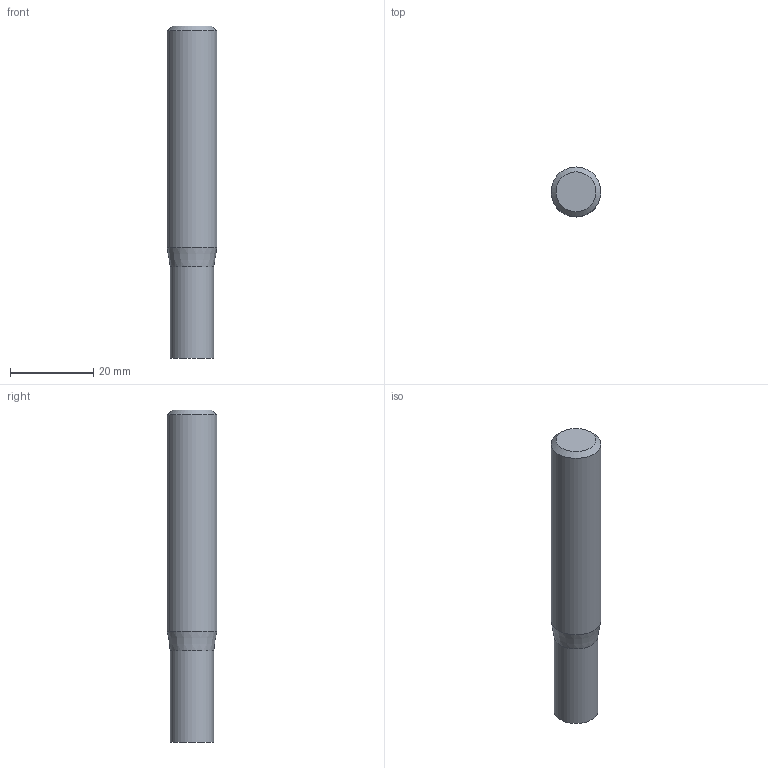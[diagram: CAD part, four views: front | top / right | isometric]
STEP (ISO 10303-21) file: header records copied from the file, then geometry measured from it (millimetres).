
FILE_DESCRIPTION((''),'2;1');
FILE_NAME('C:\Users\nsx150\AppData\Local\Temp\Mastercam 2021\98T1Q6BTT1\TEMP.step','2021-10-21T14:50:12',(''),(''),'STEP Write','Mastercam 2021 ... CNC Software, Inc.','');
FILE_SCHEMA(('AUTOMOTIVE_DESIGN'));
Length unit declared in the file: millimetre
Products named in the file (1): None
Bounding box: 12 x 12 x 80 mm (x, y, z)
Volume: 8375.1 mm3; surface area: 3247.7 mm2
Topology: 2 solids, 2 shells, 8 faces, 10 edges, 6 vertices
Faces by surface type: plane 4, cylinder 2, cone 2
Full cylindrical faces by diameter (mm): 10.5 x1, 12 x1
Entity records: 190 total; most frequent: DIRECTION 32, CARTESIAN_POINT 22, AXIS2_PLACEMENT_3D 16, ORIENTED_EDGE 12, EDGE_LOOP 12, STYLED_ITEM 11, ADVANCED_FACE 8, VERTEX_POINT 6
